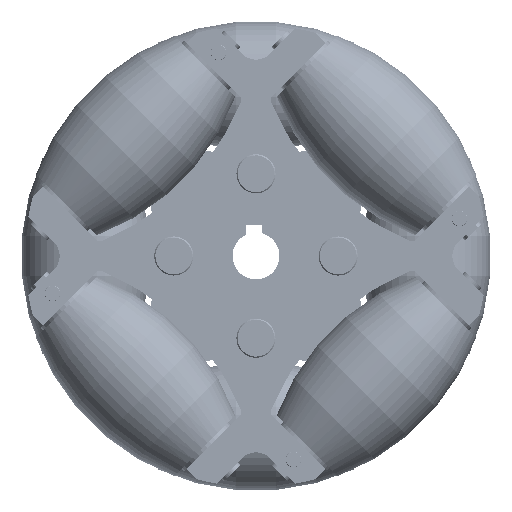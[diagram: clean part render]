
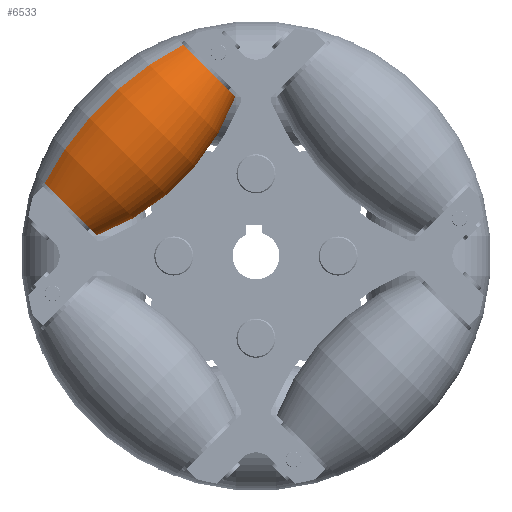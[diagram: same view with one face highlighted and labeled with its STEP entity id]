
A CAD part, left-side view. The second image highlights one B-rep face of the part: STEP entity #6533.
In plain terms, the highlighted toroidal (fillet/blend) face has major radius 43.5 mm and minor radius 60 mm.
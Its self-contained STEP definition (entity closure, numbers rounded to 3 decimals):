
#49 = CARTESIAN_POINT ( 'NONE',  ( 312.982, 99.333, 0. ) ) ;
#361 = CIRCLE ( 'NONE', #4039, 11.044 ) ;
#529 = CIRCLE ( 'NONE', #3584, 60. ) ;
#580 = CARTESIAN_POINT ( 'NONE',  ( 337.982, 99.333, 11.044 ) ) ;
#833 = AXIS2_PLACEMENT_3D ( 'NONE', #6180, #1053, #3988 ) ;
#1053 = DIRECTION ( 'NONE',  ( 0., -1., 0. ) ) ;
#1077 = ORIENTED_EDGE ( 'NONE', *, *, #5887, .T. ) ;
#1139 = CIRCLE ( 'NONE', #6487, 11.044 ) ;
#1561 = ORIENTED_EDGE ( 'NONE', *, *, #8791, .F. ) ;
#2142 = VERTEX_POINT ( 'NONE', #5586 ) ;
#2266 = EDGE_LOOP ( 'NONE', ( #5993, #1077, #8868, #1561 ) ) ;
#2448 = CARTESIAN_POINT ( 'NONE',  ( 312.982, 99.333, -43.5 ) ) ;
#2680 = TOROIDAL_SURFACE ( 'NONE', #5397, -43.5, 60. ) ;
#2994 = FACE_OUTER_BOUND ( 'NONE', #2266, .T. ) ;
#3384 = DIRECTION ( 'NONE',  ( 0., 0., 1. ) ) ;
#3584 = AXIS2_PLACEMENT_3D ( 'NONE', #2448, #4102, #3384 ) ;
#3709 = DIRECTION ( 'NONE',  ( 1., 0., 0. ) ) ;
#3988 = DIRECTION ( 'NONE',  ( 0., 0., -1. ) ) ;
#3996 = DIRECTION ( 'NONE',  ( 0., 0., -1. ) ) ;
#4039 = AXIS2_PLACEMENT_3D ( 'NONE', #5415, #8357, #3996 ) ;
#4102 = DIRECTION ( 'NONE',  ( 0., 1., 0. ) ) ;
#4304 = VERTEX_POINT ( 'NONE', #4878 ) ;
#4496 = CARTESIAN_POINT ( 'NONE',  ( 287.982, 99.333, 11.044 ) ) ;
#4878 = CARTESIAN_POINT ( 'NONE',  ( 287.982, 99.333, -11.044 ) ) ;
#4935 = DIRECTION ( 'NONE',  ( 0., 0., -1. ) ) ;
#5397 = AXIS2_PLACEMENT_3D ( 'NONE', #49, #3709, #5809 ) ;
#5415 = CARTESIAN_POINT ( 'NONE',  ( 337.982, 99.333, 0. ) ) ;
#5586 = CARTESIAN_POINT ( 'NONE',  ( 337.982, 99.333, -11.044 ) ) ;
#5809 = DIRECTION ( 'NONE',  ( 0., 0., -1. ) ) ;
#5887 = EDGE_CURVE ( 'NONE', #7002, #4304, #1139, .T. ) ;
#5993 = ORIENTED_EDGE ( 'NONE', *, *, #8739, .F. ) ;
#6180 = CARTESIAN_POINT ( 'NONE',  ( 312.982, 99.333, 43.5 ) ) ;
#6487 = AXIS2_PLACEMENT_3D ( 'NONE', #7067, #8562, #4935 ) ;
#6533 = ADVANCED_FACE ( 'NONE', ( #2994 ), #2680, .T. ) ;
#6715 = EDGE_CURVE ( 'NONE', #4304, #2142, #9423, .T. ) ;
#7002 = VERTEX_POINT ( 'NONE', #4496 ) ;
#7067 = CARTESIAN_POINT ( 'NONE',  ( 287.982, 99.333, 0. ) ) ;
#7349 = VERTEX_POINT ( 'NONE', #580 ) ;
#8357 = DIRECTION ( 'NONE',  ( 1., 0., 0. ) ) ;
#8562 = DIRECTION ( 'NONE',  ( 1., 0., 0. ) ) ;
#8739 = EDGE_CURVE ( 'NONE', #7002, #7349, #529, .T. ) ;
#8791 = EDGE_CURVE ( 'NONE', #7349, #2142, #361, .T. ) ;
#8868 = ORIENTED_EDGE ( 'NONE', *, *, #6715, .T. ) ;
#9423 = CIRCLE ( 'NONE', #833, 60. ) ;
